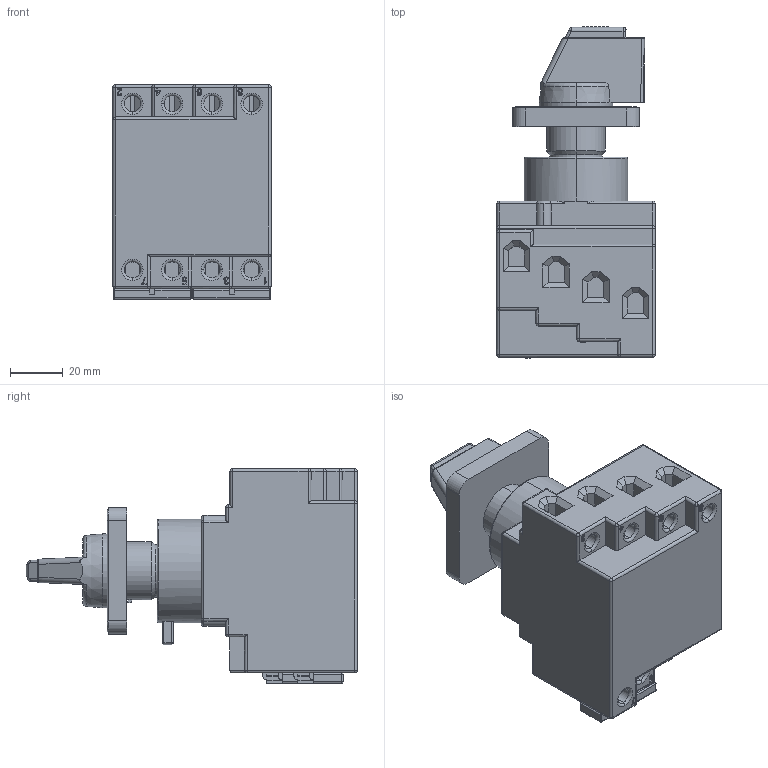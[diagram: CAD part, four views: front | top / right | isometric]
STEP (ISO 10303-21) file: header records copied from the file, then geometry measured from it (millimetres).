
FILE_DESCRIPTION (( 'STEP AP203' ), '1' );
FILE_NAME ('LS32 ZH1 A4O.STEP', '2014-08-19T08:57:23', ( 'edv' ), ( '' ), 'SwSTEP 2.0', 'SolidWorks 2014', '' );
FILE_SCHEMA (( 'CONFIG_CONTROL_DESIGN' ));
Length unit declared in the file: millimetre
Products named in the file (4): Dummie Schalterkörper Z; Dummie Griff SV1Z; LSV-B1; LS32 ZH1 A4O
Assembly tree (4 placements, depth 2):
  LS32 ZH1 A4O
    Dummie Schalterkörper Z
    Dummie Griff SV1Z
    LSV-B1  x2
Bounding box: 60 x 125.8 x 81.3 mm (x, y, z)
Volume: 277343.7 mm3; surface area: 46739.8 mm2
Topology: 4 solids, 4 shells, 731 faces, 1844 edges, 1118 vertices
Faces by surface type: plane 385, cylinder 162, bspline 110, sphere 36, torus 28, cone 10
Entity records: 26429 total; most frequent: CARTESIAN_POINT 10495, ORIENTED_EDGE 3384, DIRECTION 2910, EDGE_CURVE 1692, LINE 1060, VECTOR 1060, VERTEX_POINT 1048, AXIS2_PLACEMENT_3D 925
